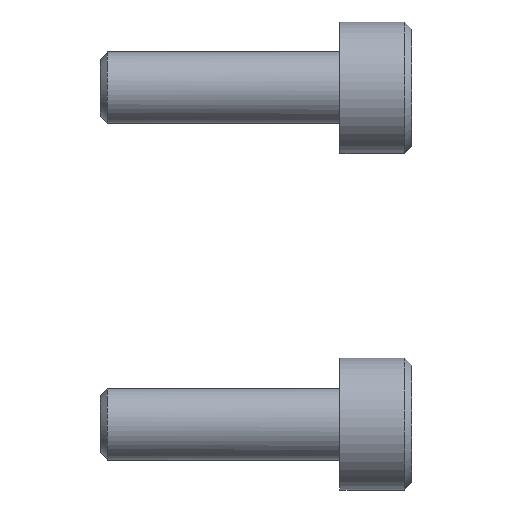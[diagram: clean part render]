
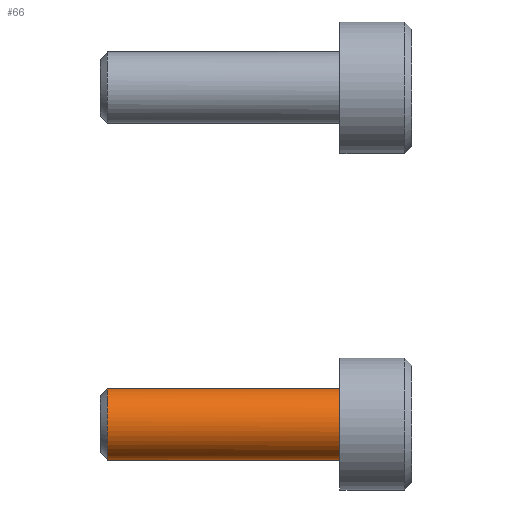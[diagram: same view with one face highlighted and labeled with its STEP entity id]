
A CAD part, front view. The second image highlights one B-rep face of the part: STEP entity #66.
In plain terms, the highlighted free-form (B-spline) face has degree [2, 1] with [9, 2] control points.
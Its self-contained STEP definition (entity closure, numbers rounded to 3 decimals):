
#66=ADVANCED_FACE('',(#141),#2223,.T.);
#141=FACE_OUTER_BOUND('',#216,.T.);
#216=EDGE_LOOP('',(#303,#304,#305,#306));
#303=ORIENTED_EDGE('',*,*,#1544,.T.);
#304=ORIENTED_EDGE('',*,*,#1545,.T.);
#305=ORIENTED_EDGE('',*,*,#1546,.T.);
#306=ORIENTED_EDGE('',*,*,#1547,.T.);
#622=(
BOUNDED_CURVE()
B_SPLINE_CURVE(2,(#2668,#2669,#2670,#2671,#2672),.UNSPECIFIED.,.F.,.F.)
B_SPLINE_CURVE_WITH_KNOTS((3,2,3),(0.,2.356,4.712),
 .UNSPECIFIED.)
CURVE()
GEOMETRIC_REPRESENTATION_ITEM()
RATIONAL_B_SPLINE_CURVE((1.,0.707,1.,0.707,1.))
REPRESENTATION_ITEM('')
);
#623=(
BOUNDED_CURVE()
B_SPLINE_CURVE(2,(#2679,#2680,#2681,#2682,#2683),.UNSPECIFIED.,.F.,.F.)
B_SPLINE_CURVE_WITH_KNOTS((3,2,3),(-4.712,-2.356,0.),
 .UNSPECIFIED.)
CURVE()
GEOMETRIC_REPRESENTATION_ITEM()
RATIONAL_B_SPLINE_CURVE((1.,0.707,1.,0.707,1.))
REPRESENTATION_ITEM('')
);
#650=(
BOUNDED_CURVE()
B_SPLINE_CURVE(2,(#2972,#2973,#2974,#2975,#2976),.UNSPECIFIED.,.F.,.F.)
B_SPLINE_CURVE_WITH_KNOTS((3,2,3),(-4.712,-2.356,0.),
 .UNSPECIFIED.)
CURVE()
GEOMETRIC_REPRESENTATION_ITEM()
RATIONAL_B_SPLINE_CURVE((1.,0.707,1.,0.707,1.))
REPRESENTATION_ITEM('')
);
#735=PCURVE('',#2223,#1059);
#736=PCURVE('',#2223,#1060);
#737=PCURVE('',#2223,#1061);
#738=PCURVE('',#2223,#1062);
#742=PCURVE('',#2224,#1066);
#811=PCURVE('',#2228,#1135);
#813=PCURVE('',#2228,#1137);
#818=PCURVE('',#2189,#1142);
#1059=DEFINITIONAL_REPRESENTATION('',(#1712),#4285);
#1060=DEFINITIONAL_REPRESENTATION('',(#1713),#4285);
#1061=DEFINITIONAL_REPRESENTATION('',(#1715),#4285);
#1062=DEFINITIONAL_REPRESENTATION('',(#1716),#4285);
#1066=DEFINITIONAL_REPRESENTATION('',(#1722),#4285);
#1135=DEFINITIONAL_REPRESENTATION('',(#1807),#4285);
#1137=DEFINITIONAL_REPRESENTATION('',(#1809),#4285);
#1142=DEFINITIONAL_REPRESENTATION('',(#650),#4285);
#1382=SURFACE_CURVE('',#1711,(#735,#811),.PCURVE_S1.);
#1383=SURFACE_CURVE('',#622,(#736,#742),.PCURVE_S1.);
#1384=SURFACE_CURVE('',#1714,(#737,#813),.PCURVE_S1.);
#1385=SURFACE_CURVE('',#623,(#738,#818),.PCURVE_S1.);
#1544=EDGE_CURVE('',#2083,#2084,#1382,.T.);
#1545=EDGE_CURVE('',#2084,#2085,#1383,.T.);
#1546=EDGE_CURVE('',#2085,#2086,#1384,.T.);
#1547=EDGE_CURVE('',#2086,#2083,#1385,.T.);
#1711=B_SPLINE_CURVE_WITH_KNOTS('',1,(#2664,#2665),.UNSPECIFIED.,.F.,.F.,
(2,2),(-9.694,0.),.UNSPECIFIED.);
#1712=B_SPLINE_CURVE_WITH_KNOTS('',1,(#2666,#2667),.UNSPECIFIED.,.F.,.F.,
(2,2),(-9.694,0.),.UNSPECIFIED.);
#1713=B_SPLINE_CURVE_WITH_KNOTS('',1,(#2673,#2674),.UNSPECIFIED.,.F.,.F.,
(2,2),(0.,4.712),.UNSPECIFIED.);
#1714=B_SPLINE_CURVE_WITH_KNOTS('',1,(#2675,#2676),.UNSPECIFIED.,.F.,.F.,
(2,2),(-9.694,0.),.UNSPECIFIED.);
#1715=B_SPLINE_CURVE_WITH_KNOTS('',1,(#2677,#2678),.UNSPECIFIED.,.F.,.F.,
(2,2),(-9.694,0.),.UNSPECIFIED.);
#1716=B_SPLINE_CURVE_WITH_KNOTS('',1,(#2684,#2685),.UNSPECIFIED.,.F.,.F.,
(2,2),(-4.712,0.),.UNSPECIFIED.);
#1722=B_SPLINE_CURVE_WITH_KNOTS('',1,(#2701,#2702),.UNSPECIFIED.,.F.,.F.,
(2,2),(0.,4.712),.UNSPECIFIED.);
#1807=B_SPLINE_CURVE_WITH_KNOTS('',1,(#2939,#2940),.UNSPECIFIED.,.F.,.F.,
(2,2),(-9.694,0.),.UNSPECIFIED.);
#1809=B_SPLINE_CURVE_WITH_KNOTS('',1,(#2948,#2949),.UNSPECIFIED.,.F.,.F.,
(2,2),(-9.694,0.),.UNSPECIFIED.);
#2083=VERTEX_POINT('',#2598);
#2084=VERTEX_POINT('',#2599);
#2085=VERTEX_POINT('',#2600);
#2086=VERTEX_POINT('',#2601);
#2189=PLANE('',#2305);
#2223=(
BOUNDED_SURFACE()
B_SPLINE_SURFACE(2,1,((#2433,#2434),(#2435,#2436),(#2437,#2438),(#2439,#2440),
(#2441,#2442),(#2443,#2444),(#2445,#2446),(#2447,#2448),(#2449,#2450)),
 .UNSPECIFIED.,.T.,.F.,.F.)
B_SPLINE_SURFACE_WITH_KNOTS((3,2,2,2,3),(2,2),(0.,1.571,3.142,
4.712,6.283),(0.,11.635),.UNSPECIFIED.)
GEOMETRIC_REPRESENTATION_ITEM()
RATIONAL_B_SPLINE_SURFACE(((1.,1.),(0.707,0.707),
(1.,1.),(0.707,0.707),(1.,1.),(0.707,
0.707),(1.,1.),(0.707,0.707),(1.,1.)))
REPRESENTATION_ITEM('')
SURFACE()
);
#2224=(
BOUNDED_SURFACE()
B_SPLINE_SURFACE(2,1,((#2451,#2452),(#2453,#2454),(#2455,#2456),(#2457,#2458),
(#2459,#2460),(#2461,#2462),(#2463,#2464),(#2465,#2466),(#2467,#2468)),
 .UNSPECIFIED.,.T.,.F.,.F.)
B_SPLINE_SURFACE_WITH_KNOTS((3,2,2,2,3),(2,2),(0.,1.571,3.142,
4.712,6.283),(0.,2.335),.UNSPECIFIED.)
GEOMETRIC_REPRESENTATION_ITEM()
RATIONAL_B_SPLINE_SURFACE(((1.,1.),(0.707,0.707),
(1.,1.),(0.707,0.707),(1.,1.),(0.707,
0.707),(1.,1.),(0.707,0.707),(1.,1.)))
REPRESENTATION_ITEM('')
SURFACE()
);
#2228=(
BOUNDED_SURFACE()
B_SPLINE_SURFACE(2,1,((#2536,#2537),(#2538,#2539),(#2540,#2541),(#2542,#2543),
(#2544,#2545),(#2546,#2547),(#2548,#2549),(#2550,#2551),(#2552,#2553)),
 .UNSPECIFIED.,.T.,.F.,.F.)
B_SPLINE_SURFACE_WITH_KNOTS((3,2,2,2,3),(2,2),(0.,1.571,3.142,
4.712,6.283),(0.,11.635),.UNSPECIFIED.)
GEOMETRIC_REPRESENTATION_ITEM()
RATIONAL_B_SPLINE_SURFACE(((1.,1.),(0.707,0.707),
(1.,1.),(0.707,0.707),(1.,1.),(0.707,
0.707),(1.,1.),(0.707,0.707),(1.,1.)))
REPRESENTATION_ITEM('')
SURFACE()
);
#2305=AXIS2_PLACEMENT_3D('',#2554,#2356,$);
#2356=DIRECTION('',(1.,0.,0.));
#2433=CARTESIAN_POINT('',(760.971,26.5,-6.));
#2434=CARTESIAN_POINT('',(749.336,26.5,-6.));
#2435=CARTESIAN_POINT('',(760.971,26.5,-4.5));
#2436=CARTESIAN_POINT('',(749.336,26.5,-4.5));
#2437=CARTESIAN_POINT('',(760.971,25.,-4.5));
#2438=CARTESIAN_POINT('',(749.336,25.,-4.5));
#2439=CARTESIAN_POINT('',(760.971,23.5,-4.5));
#2440=CARTESIAN_POINT('',(749.336,23.5,-4.5));
#2441=CARTESIAN_POINT('',(760.971,23.5,-6.));
#2442=CARTESIAN_POINT('',(749.336,23.5,-6.));
#2443=CARTESIAN_POINT('',(760.971,23.5,-7.5));
#2444=CARTESIAN_POINT('',(749.336,23.5,-7.5));
#2445=CARTESIAN_POINT('',(760.971,25.,-7.5));
#2446=CARTESIAN_POINT('',(749.336,25.,-7.5));
#2447=CARTESIAN_POINT('',(760.971,26.5,-7.5));
#2448=CARTESIAN_POINT('',(749.336,26.5,-7.5));
#2449=CARTESIAN_POINT('',(760.971,26.5,-6.));
#2450=CARTESIAN_POINT('',(749.336,26.5,-6.));
#2451=CARTESIAN_POINT('',(748.807,25.,-6.));
#2452=CARTESIAN_POINT('',(750.458,26.651,-6.));
#2453=CARTESIAN_POINT('',(748.807,25.,-6.));
#2454=CARTESIAN_POINT('',(750.458,26.651,-7.651));
#2455=CARTESIAN_POINT('',(748.807,25.,-6.));
#2456=CARTESIAN_POINT('',(750.458,25.,-7.651));
#2457=CARTESIAN_POINT('',(748.807,25.,-6.));
#2458=CARTESIAN_POINT('',(750.458,23.349,-7.651));
#2459=CARTESIAN_POINT('',(748.807,25.,-6.));
#2460=CARTESIAN_POINT('',(750.458,23.349,-6.));
#2461=CARTESIAN_POINT('',(748.807,25.,-6.));
#2462=CARTESIAN_POINT('',(750.458,23.349,-4.349));
#2463=CARTESIAN_POINT('',(748.807,25.,-6.));
#2464=CARTESIAN_POINT('',(750.458,25.,-4.349));
#2465=CARTESIAN_POINT('',(748.807,25.,-6.));
#2466=CARTESIAN_POINT('',(750.458,26.651,-4.349));
#2467=CARTESIAN_POINT('',(748.807,25.,-6.));
#2468=CARTESIAN_POINT('',(750.458,26.651,-6.));
#2536=CARTESIAN_POINT('',(760.971,23.5,-6.));
#2537=CARTESIAN_POINT('',(749.336,23.5,-6.));
#2538=CARTESIAN_POINT('',(760.971,23.5,-7.5));
#2539=CARTESIAN_POINT('',(749.336,23.5,-7.5));
#2540=CARTESIAN_POINT('',(760.971,25.,-7.5));
#2541=CARTESIAN_POINT('',(749.336,25.,-7.5));
#2542=CARTESIAN_POINT('',(760.971,26.5,-7.5));
#2543=CARTESIAN_POINT('',(749.336,26.5,-7.5));
#2544=CARTESIAN_POINT('',(760.971,26.5,-6.));
#2545=CARTESIAN_POINT('',(749.336,26.5,-6.));
#2546=CARTESIAN_POINT('',(760.971,26.5,-4.5));
#2547=CARTESIAN_POINT('',(749.336,26.5,-4.5));
#2548=CARTESIAN_POINT('',(760.971,25.,-4.5));
#2549=CARTESIAN_POINT('',(749.336,25.,-4.5));
#2550=CARTESIAN_POINT('',(760.971,23.5,-4.5));
#2551=CARTESIAN_POINT('',(749.336,23.5,-4.5));
#2552=CARTESIAN_POINT('',(760.971,23.5,-6.));
#2553=CARTESIAN_POINT('',(749.336,23.5,-6.));
#2554=CARTESIAN_POINT('',(760.,28.301,-9.301));
#2598=CARTESIAN_POINT('',(760.,25.,-7.5));
#2599=CARTESIAN_POINT('',(750.307,25.,-7.5));
#2600=CARTESIAN_POINT('',(750.307,25.,-4.5));
#2601=CARTESIAN_POINT('',(760.,25.,-4.5));
#2664=CARTESIAN_POINT('',(760.,25.,-7.5));
#2665=CARTESIAN_POINT('',(750.307,25.,-7.5));
#2666=CARTESIAN_POINT('',(4.712,0.971));
#2667=CARTESIAN_POINT('',(4.712,10.664));
#2668=CARTESIAN_POINT('',(750.307,25.,-7.5));
#2669=CARTESIAN_POINT('',(750.307,23.5,-7.5));
#2670=CARTESIAN_POINT('',(750.307,23.5,-6.));
#2671=CARTESIAN_POINT('',(750.307,23.5,-4.5));
#2672=CARTESIAN_POINT('',(750.307,25.,-4.5));
#2673=CARTESIAN_POINT('',(4.712,10.664));
#2674=CARTESIAN_POINT('',(1.571,10.664));
#2675=CARTESIAN_POINT('',(750.307,25.,-4.5));
#2676=CARTESIAN_POINT('',(760.,25.,-4.5));
#2677=CARTESIAN_POINT('',(1.571,10.664));
#2678=CARTESIAN_POINT('',(1.571,0.971));
#2679=CARTESIAN_POINT('',(760.,25.,-4.5));
#2680=CARTESIAN_POINT('',(760.,23.5,-4.5));
#2681=CARTESIAN_POINT('',(760.,23.5,-6.));
#2682=CARTESIAN_POINT('',(760.,23.5,-7.5));
#2683=CARTESIAN_POINT('',(760.,25.,-7.5));
#2684=CARTESIAN_POINT('',(1.571,0.971));
#2685=CARTESIAN_POINT('',(4.712,0.971));
#2701=CARTESIAN_POINT('',(1.571,2.121));
#2702=CARTESIAN_POINT('',(4.712,2.121));
#2939=CARTESIAN_POINT('',(1.571,0.971));
#2940=CARTESIAN_POINT('',(1.571,10.664));
#2948=CARTESIAN_POINT('',(4.712,10.664));
#2949=CARTESIAN_POINT('',(4.712,0.971));
#2972=CARTESIAN_POINT('',(3.625,0.));
#2973=CARTESIAN_POINT('',(3.625,1.5));
#2974=CARTESIAN_POINT('',(2.125,1.5));
#2975=CARTESIAN_POINT('',(0.625,1.5));
#2976=CARTESIAN_POINT('',(0.625,0.));
#4285=(
GEOMETRIC_REPRESENTATION_CONTEXT(2)
PARAMETRIC_REPRESENTATION_CONTEXT()
REPRESENTATION_CONTEXT('pspace','')
);
